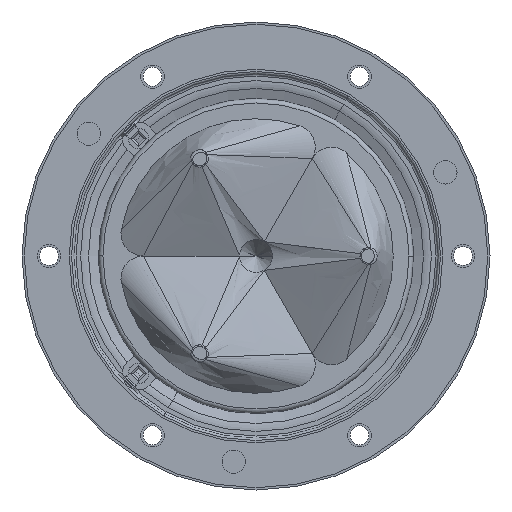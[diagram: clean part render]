
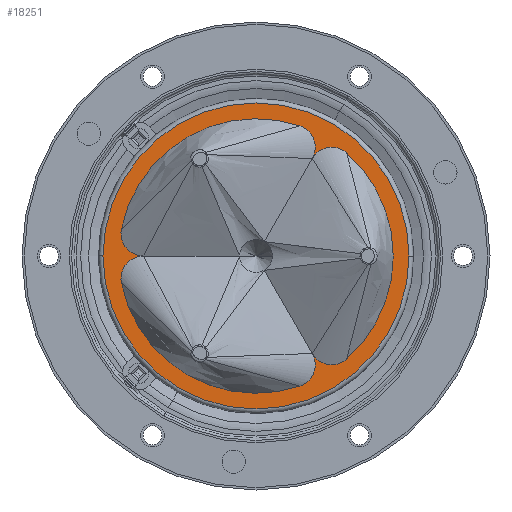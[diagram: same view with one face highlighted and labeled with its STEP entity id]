
A CAD part, front view. The second image highlights one B-rep face of the part: STEP entity #18251.
In plain terms, the highlighted planar face has unit normal (0, -1, 0).
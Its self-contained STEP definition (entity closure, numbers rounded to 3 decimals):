
#401 = DIRECTION ( 'NONE',  ( 0., -1., 0. ) ) ;
#464 = AXIS2_PLACEMENT_3D ( 'NONE', #13070, #14708, #1656 ) ;
#478 = CARTESIAN_POINT ( 'NONE',  ( 8.172, -2., -24.155 ) ) ;
#867 = EDGE_CURVE ( 'NONE', #5412, #3470, #17022, .T. ) ;
#909 = VERTEX_POINT ( 'NONE', #3734 ) ;
#1043 = AXIS2_PLACEMENT_3D ( 'NONE', #3502, #15463, #7096 ) ;
#1193 = VERTEX_POINT ( 'NONE', #20589 ) ;
#1656 = DIRECTION ( 'NONE',  ( -0.5, 0., 0.866 ) ) ;
#1760 = ORIENTED_EDGE ( 'NONE', *, *, #867, .T. ) ;
#1961 = EDGE_CURVE ( 'NONE', #15893, #21427, #14687, .T. ) ;
#2005 = VERTEX_POINT ( 'NONE', #14753 ) ;
#2447 = EDGE_LOOP ( 'NONE', ( #20549, #16882 ) ) ;
#2544 = CIRCLE ( 'NONE', #464, 5. ) ;
#3012 = AXIS2_PLACEMENT_3D ( 'NONE', #19496, #11183, #9052 ) ;
#3272 = FACE_BOUND ( 'NONE', #21114, .T. ) ;
#3470 = VERTEX_POINT ( 'NONE', #4048 ) ;
#3502 = CARTESIAN_POINT ( 'NONE',  ( -25.005, -2., -5. ) ) ;
#3528 = ORIENTED_EDGE ( 'NONE', *, *, #8929, .T. ) ;
#3734 = CARTESIAN_POINT ( 'NONE',  ( 34., -2., 0. ) ) ;
#4048 = CARTESIAN_POINT ( 'NONE',  ( -25.005, -2., 0. ) ) ;
#4242 = CIRCLE ( 'NONE', #14285, 30.5 ) ;
#4465 = DIRECTION ( 'NONE',  ( -0.5, 0., 0.866 ) ) ;
#4628 = CARTESIAN_POINT ( 'NONE',  ( 9.775, -2., -28.891 ) ) ;
#4683 = DIRECTION ( 'NONE',  ( 0., 1., 0. ) ) ;
#4747 = CARTESIAN_POINT ( 'NONE',  ( 16.833, -2., 19.155 ) ) ;
#4849 = AXIS2_PLACEMENT_3D ( 'NONE', #5361, #11945, #16975 ) ;
#5149 = CIRCLE ( 'NONE', #9977, 5. ) ;
#5246 = EDGE_CURVE ( 'NONE', #13122, #5412, #4242, .T. ) ;
#5256 = EDGE_CURVE ( 'NONE', #14892, #15893, #20227, .T. ) ;
#5361 = CARTESIAN_POINT ( 'NONE',  ( 0., -2., 0. ) ) ;
#5373 = CARTESIAN_POINT ( 'NONE',  ( 20.133, -2., 22.911 ) ) ;
#5412 = VERTEX_POINT ( 'NONE', #18518 ) ;
#5928 = EDGE_CURVE ( 'NONE', #14823, #909, #10760, .T. ) ;
#6028 = DIRECTION ( 'NONE',  ( 0., 1., 0. ) ) ;
#6724 = AXIS2_PLACEMENT_3D ( 'NONE', #6735, #14856, #13016 ) ;
#6735 = CARTESIAN_POINT ( 'NONE',  ( 16.833, -2., -19.155 ) ) ;
#6915 = EDGE_CURVE ( 'NONE', #19997, #14892, #7737, .T. ) ;
#6970 = CARTESIAN_POINT ( 'NONE',  ( 20.133, -2., -22.911 ) ) ;
#7096 = DIRECTION ( 'NONE',  ( -0.5, 0., -0.866 ) ) ;
#7737 = CIRCLE ( 'NONE', #13669, 5. ) ;
#8354 = AXIS2_PLACEMENT_3D ( 'NONE', #13132, #4683, #21575 ) ;
#8609 = CARTESIAN_POINT ( 'NONE',  ( -34., -2., 0. ) ) ;
#8698 = ORIENTED_EDGE ( 'NONE', *, *, #14318, .T. ) ;
#8929 = EDGE_CURVE ( 'NONE', #21427, #13122, #14432, .T. ) ;
#9052 = DIRECTION ( 'NONE',  ( -0.5, 0., 0.866 ) ) ;
#9071 = ORIENTED_EDGE ( 'NONE', *, *, #1961, .T. ) ;
#9394 = AXIS2_PLACEMENT_3D ( 'NONE', #17143, #401, #15612 ) ;
#9671 = DIRECTION ( 'NONE',  ( -0.5, 0., -0.866 ) ) ;
#9977 = AXIS2_PLACEMENT_3D ( 'NONE', #12704, #19375, #4465 ) ;
#10655 = DIRECTION ( 'NONE',  ( -0.5, 0., -0.866 ) ) ;
#10760 = CIRCLE ( 'NONE', #9394, 34. ) ;
#11182 = DIRECTION ( 'NONE',  ( 0., 1., 0. ) ) ;
#11183 = DIRECTION ( 'NONE',  ( 0., 1., 0. ) ) ;
#11945 = DIRECTION ( 'NONE',  ( 0., -1., 0. ) ) ;
#12704 = CARTESIAN_POINT ( 'NONE',  ( 8.172, -2., 24.155 ) ) ;
#12722 = DIRECTION ( 'NONE',  ( 1., 0., 0. ) ) ;
#12948 = CARTESIAN_POINT ( 'NONE',  ( 0., -2., 0. ) ) ;
#13016 = DIRECTION ( 'NONE',  ( 1., 0., 0. ) ) ;
#13070 = CARTESIAN_POINT ( 'NONE',  ( -25.005, -2., 5. ) ) ;
#13122 = VERTEX_POINT ( 'NONE', #4628 ) ;
#13132 = CARTESIAN_POINT ( 'NONE',  ( 0., -2., 0. ) ) ;
#13255 = FACE_OUTER_BOUND ( 'NONE', #2447, .T. ) ;
#13369 = EDGE_CURVE ( 'NONE', #1193, #2005, #19702, .T. ) ;
#13669 = AXIS2_PLACEMENT_3D ( 'NONE', #4747, #21527, #16585 ) ;
#13863 = CIRCLE ( 'NONE', #4849, 34. ) ;
#14285 = AXIS2_PLACEMENT_3D ( 'NONE', #12948, #11182, #9671 ) ;
#14318 = EDGE_CURVE ( 'NONE', #2005, #19997, #5149, .T. ) ;
#14432 = CIRCLE ( 'NONE', #14771, 5. ) ;
#14666 = PLANE ( 'NONE',  #8354 ) ;
#14687 = CIRCLE ( 'NONE', #6724, 5. ) ;
#14708 = DIRECTION ( 'NONE',  ( 0., 1., 0. ) ) ;
#14753 = CARTESIAN_POINT ( 'NONE',  ( 9.775, -2., 28.891 ) ) ;
#14771 = AXIS2_PLACEMENT_3D ( 'NONE', #478, #16894, #10655 ) ;
#14823 = VERTEX_POINT ( 'NONE', #8609 ) ;
#14856 = DIRECTION ( 'NONE',  ( 0., 1., 0. ) ) ;
#14892 = VERTEX_POINT ( 'NONE', #5373 ) ;
#15463 = DIRECTION ( 'NONE',  ( 0., 1., 0. ) ) ;
#15612 = DIRECTION ( 'NONE',  ( 1., 0., 0. ) ) ;
#15893 = VERTEX_POINT ( 'NONE', #6970 ) ;
#15934 = CARTESIAN_POINT ( 'NONE',  ( 12.502, -2., 21.655 ) ) ;
#16363 = AXIS2_PLACEMENT_3D ( 'NONE', #21168, #6028, #12722 ) ;
#16585 = DIRECTION ( 'NONE',  ( 1., 0., 0. ) ) ;
#16804 = ORIENTED_EDGE ( 'NONE', *, *, #6915, .T. ) ;
#16882 = ORIENTED_EDGE ( 'NONE', *, *, #5928, .T. ) ;
#16894 = DIRECTION ( 'NONE',  ( 0., 1., 0. ) ) ;
#16975 = DIRECTION ( 'NONE',  ( 1., 0., 0. ) ) ;
#17022 = CIRCLE ( 'NONE', #1043, 5. ) ;
#17143 = CARTESIAN_POINT ( 'NONE',  ( 0., -2., 0. ) ) ;
#17363 = ORIENTED_EDGE ( 'NONE', *, *, #20426, .T. ) ;
#17454 = EDGE_CURVE ( 'NONE', #909, #14823, #13863, .T. ) ;
#17890 = ORIENTED_EDGE ( 'NONE', *, *, #5246, .T. ) ;
#18251 = ADVANCED_FACE ( 'NONE', ( #13255, #3272 ), #14666, .F. ) ;
#18518 = CARTESIAN_POINT ( 'NONE',  ( -29.908, -2., -5.98 ) ) ;
#19046 = ORIENTED_EDGE ( 'NONE', *, *, #13369, .T. ) ;
#19375 = DIRECTION ( 'NONE',  ( 0., 1., 0. ) ) ;
#19496 = CARTESIAN_POINT ( 'NONE',  ( 0., -2., 0. ) ) ;
#19702 = CIRCLE ( 'NONE', #3012, 30.5 ) ;
#19997 = VERTEX_POINT ( 'NONE', #15934 ) ;
#20227 = CIRCLE ( 'NONE', #16363, 30.5 ) ;
#20333 = ORIENTED_EDGE ( 'NONE', *, *, #5256, .T. ) ;
#20426 = EDGE_CURVE ( 'NONE', #3470, #1193, #2544, .T. ) ;
#20549 = ORIENTED_EDGE ( 'NONE', *, *, #17454, .T. ) ;
#20589 = CARTESIAN_POINT ( 'NONE',  ( -29.908, -2., 5.98 ) ) ;
#21114 = EDGE_LOOP ( 'NONE', ( #8698, #16804, #20333, #9071, #3528, #17890, #1760, #17363, #19046 ) ) ;
#21168 = CARTESIAN_POINT ( 'NONE',  ( 0., -2., 0. ) ) ;
#21427 = VERTEX_POINT ( 'NONE', #21481 ) ;
#21481 = CARTESIAN_POINT ( 'NONE',  ( 12.502, -2., -21.655 ) ) ;
#21527 = DIRECTION ( 'NONE',  ( 0., 1., 0. ) ) ;
#21575 = DIRECTION ( 'NONE',  ( 1., 0., 0. ) ) ;
